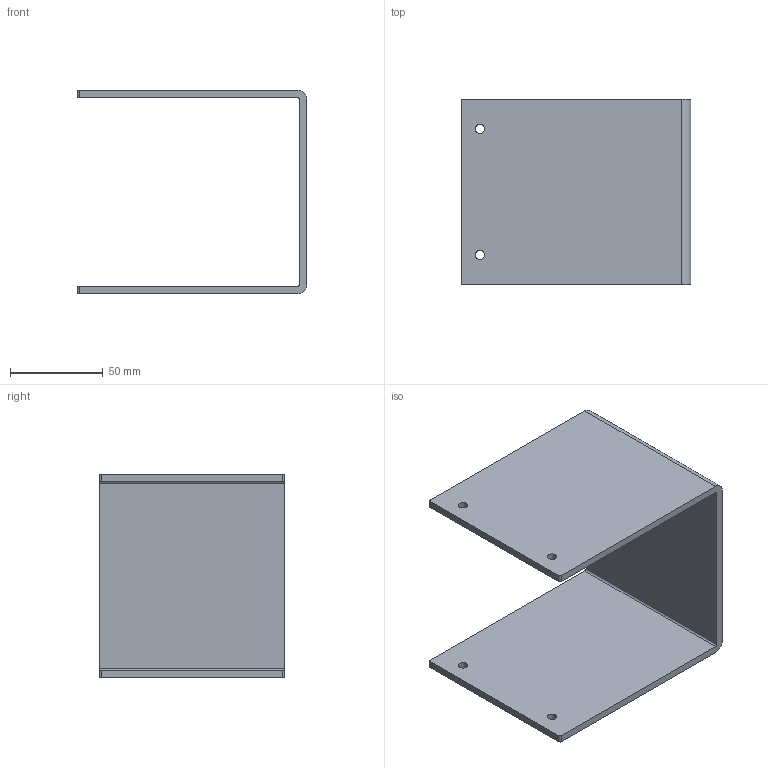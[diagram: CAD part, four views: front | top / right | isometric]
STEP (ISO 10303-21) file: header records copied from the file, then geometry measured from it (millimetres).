
FILE_DESCRIPTION(('HOOPS Exchange Step'),'2;1');
FILE_NAME('/private/var/mobile/Containers/Data/Application/E4481369-A8C6-45C6-A958-B1853E49479D/tmp/export/temp_export','2021-04-12T21:42:29+00:00',('mobile'),('Shapr3D Limited'),'HOOPS Exchange 2020.2','Shapr3D','Authorized');
FILE_SCHEMA( ('AP203_CONFIGURATION_CONTROLLED_3D_DESIGN_OF_MECHANICAL_PARTS_AND_ASSEMBLIES_MIM_LF') );
Length unit declared in the file: millimetre
Products named in the file (3): 0; /private/var/mobile/Containers/Data/Application/E4481369-A8C6-45C6-A958-B1853E49479D/tmp/BCE37496-0AFB-4CE9-8221-D1382C2D29A5.tmp
Assembly tree (2 placements, depth 3):
  /private/var/mobile/Containers/Data/Application/E4481369-A8C6-45C6-A958-B1853E49479D/tmp/BCE37496-0AFB-4CE9-8221-D1382C2D29A5.tmp
    0
      0
Bounding box: 124 x 100 x 110 mm (x, y, z)
Volume: 138652.3 mm3; surface area: 73150 mm2
Topology: 1 solids, 1 shells, 22 faces, 66 edges, 46 vertices
Faces by surface type: cylinder 12, plane 10
Full cylindrical faces by diameter (mm): 5 x4
Entity records: 854 total; most frequent: DIRECTION 150, CARTESIAN_POINT 139, ORIENTED_EDGE 132, EDGE_CURVE 66, AXIS2_PLACEMENT_3D 57, VERTEX_POINT 46, VECTOR 36, LINE 36
